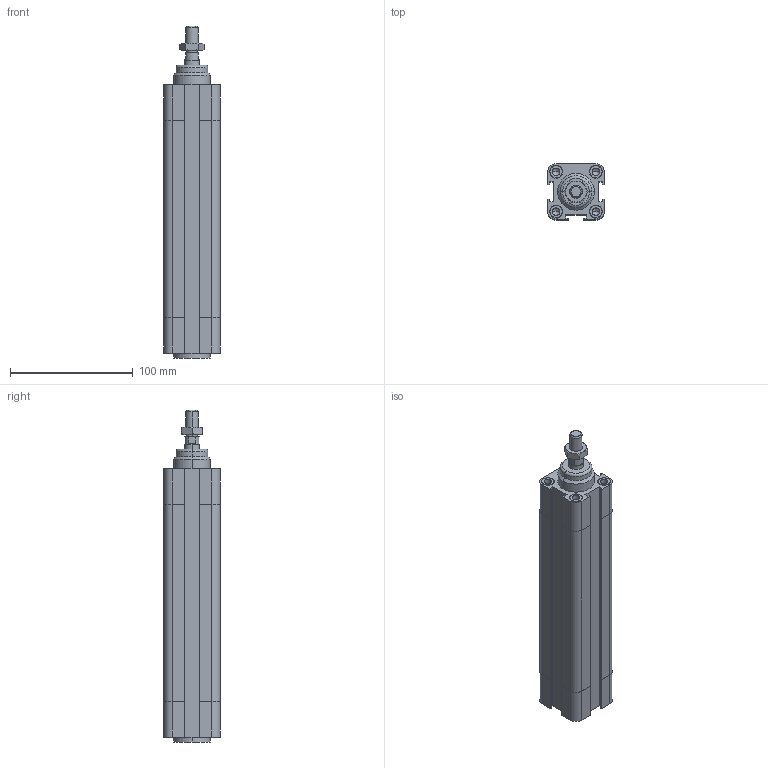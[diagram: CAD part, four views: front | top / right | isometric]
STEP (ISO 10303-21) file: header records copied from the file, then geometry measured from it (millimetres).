
FILE_DESCRIPTION((''),'2;1');
FILE_NAME('F:\Lib-3d\1380\CIL\1380_32_0125_01.stp','2004-01-07T15:58:30',('maffial1'),(''),'Autodesk Inventor 8','Autodesk Inventor 8','');
FILE_SCHEMA(('AUTOMOTIVE_DESIGN { 1 0 10303 214 1 1 1 1 }'));
Length unit declared in the file: millimetre
Products named in the file (4): 1380_32_0125_01; CPP01_32_125; CPP02_32_125; 1320_32_18F
Assembly tree (3 placements, depth 2):
  1380_32_0125_01
    CPP01_32_125
    CPP02_32_125
    1320_32_18F
Bounding box: 46 x 46 x 271 mm (x, y, z)
Volume: 419509.9 mm3; surface area: 72351.4 mm2
Topology: 3 solids, 3 shells, 244 faces, 570 edges, 356 vertices
Faces by surface type: plane 83, bspline 67, cylinder 58, cone 34, torus 2
Entity records: 7668 total; most frequent: CARTESIAN_POINT 2166, DIRECTION 1136, ORIENTED_EDGE 1108, EDGE_CURVE 554, AXIS2_PLACEMENT_3D 422, VERTEX_POINT 356, VECTOR 292, LINE 292
